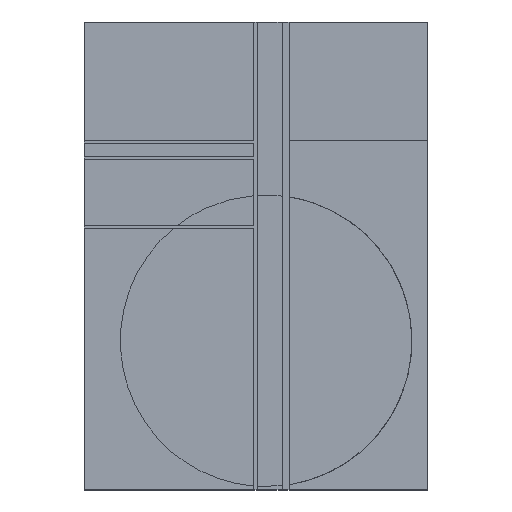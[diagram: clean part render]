
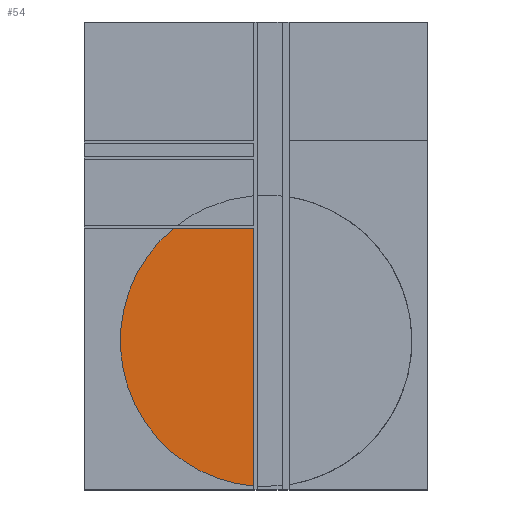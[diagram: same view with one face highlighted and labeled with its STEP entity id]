
A CAD part, top view. The second image highlights one B-rep face of the part: STEP entity #54.
In plain terms, the highlighted planar face has unit normal (0, 0, 1).
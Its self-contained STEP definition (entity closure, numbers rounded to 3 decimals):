
#54=ADVANCED_FACE('',(#159),#1453,.T.);
#159=FACE_OUTER_BOUND('',#264,.T.);
#264=EDGE_LOOP('',(#397,#398,#399,#400));
#397=ORIENTED_EDGE('',*,*,#835,.T.);
#398=ORIENTED_EDGE('',*,*,#837,.T.);
#399=ORIENTED_EDGE('',*,*,#839,.T.);
#400=ORIENTED_EDGE('',*,*,#841,.T.);
#835=EDGE_CURVE('',#1293,#1294,#1062,.T.);
#837=EDGE_CURVE('',#1294,#1295,#1255,.T.);
#839=EDGE_CURVE('',#1295,#1296,#1256,.T.);
#841=EDGE_CURVE('',#1296,#1293,#1066,.T.);
#1062=B_SPLINE_CURVE_WITH_KNOTS('',1,(#1902,#1903),.UNSPECIFIED.,.F.,.F.,
(2,2),(0.,462.139),.UNSPECIFIED.);
#1066=B_SPLINE_CURVE_WITH_KNOTS('',1,(#1918,#1919),.UNSPECIFIED.,.F.,.F.,
(2,2),(320.839,1527.468),.UNSPECIFIED.);
#1255=(
BOUNDED_CURVE()
B_SPLINE_CURVE(2,(#1906,#1907,#1908,#1909,#1910),.UNSPECIFIED.,.F.,.F.)
B_SPLINE_CURVE_WITH_KNOTS((3,2,3),(3760.912,4597.534,5434.157),
 .UNSPECIFIED.)
CURVE()
GEOMETRIC_REPRESENTATION_ITEM()
RATIONAL_B_SPLINE_CURVE((1.,0.879,1.,0.879,1.))
REPRESENTATION_ITEM('')
);
#1256=(
BOUNDED_CURVE()
B_SPLINE_CURVE(2,(#1913,#1914,#1915),.UNSPECIFIED.,.F.,.F.)
B_SPLINE_CURVE_WITH_KNOTS((3,3),(0.,353.077),.UNSPECIFIED.)
CURVE()
GEOMETRIC_REPRESENTATION_ITEM()
RATIONAL_B_SPLINE_CURVE((1.,0.981,1.))
REPRESENTATION_ITEM('')
);
#1293=VERTEX_POINT('',#1884);
#1294=VERTEX_POINT('',#1885);
#1295=VERTEX_POINT('',#1886);
#1296=VERTEX_POINT('',#1887);
#1453=PLANE('',#1633);
#1633=AXIS2_PLACEMENT_3D('',#1879,#1732,$);
#1732=DIRECTION('',(0.,0.,1.));
#1879=CARTESIAN_POINT('',(159.337,-324.192,12.));
#1884=CARTESIAN_POINT('',(1085.973,1679.274,12.));
#1885=CARTESIAN_POINT('',(573.582,1679.274,12.));
#1886=CARTESIAN_POINT('',(740.899,123.357,12.));
#1887=CARTESIAN_POINT('',(1085.973,24.989,12.));
#1902=CARTESIAN_POINT('',(1085.973,1679.274,12.));
#1903=CARTESIAN_POINT('',(573.582,1679.274,12.));
#1906=CARTESIAN_POINT('',(573.582,1679.274,12.));
#1907=CARTESIAN_POINT('',(181.734,1359.091,12.));
#1908=CARTESIAN_POINT('',(235.833,856.013,12.));
#1909=CARTESIAN_POINT('',(289.932,352.936,12.));
#1910=CARTESIAN_POINT('',(740.899,123.357,12.));
#1913=CARTESIAN_POINT('',(740.899,123.357,12.));
#1914=CARTESIAN_POINT('',(903.812,40.421,12.));
#1915=CARTESIAN_POINT('',(1085.973,24.989,12.));
#1918=CARTESIAN_POINT('',(1085.973,24.989,12.));
#1919=CARTESIAN_POINT('',(1085.973,1679.274,12.));
